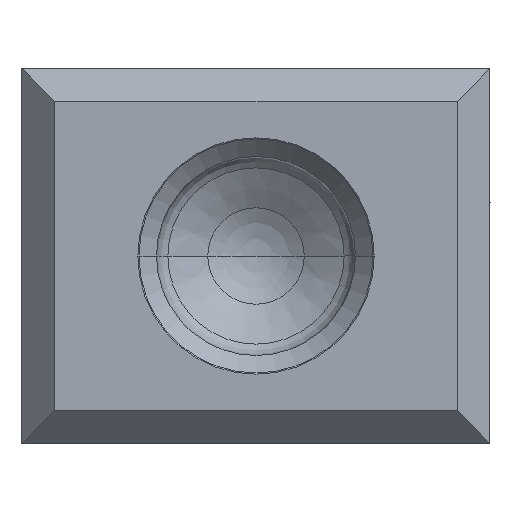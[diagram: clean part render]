
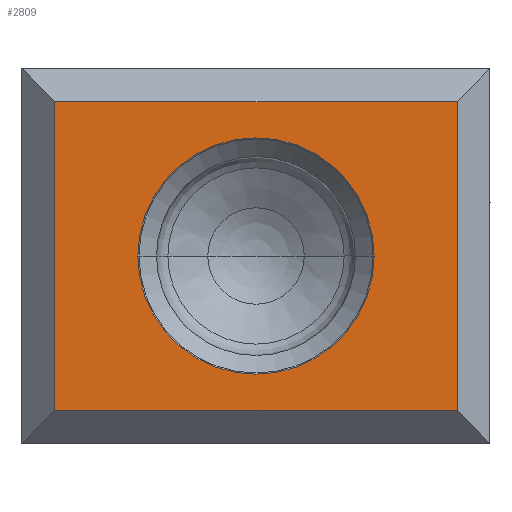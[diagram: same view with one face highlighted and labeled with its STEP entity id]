
A CAD part, left-side view. The second image highlights one B-rep face of the part: STEP entity #2809.
In plain terms, the highlighted planar face has unit normal (-1, 0, 0).
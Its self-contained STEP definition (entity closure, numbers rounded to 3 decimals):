
#489=DIRECTION('',(0.,1.,0.));
#490=VECTOR('',#489,8.6);
#491=CARTESIAN_POINT('',(-22.,0.7,3.3));
#492=LINE('',#491,#490);
#497=DIRECTION('',(0.,0.,-1.));
#498=VECTOR('',#497,6.6);
#499=CARTESIAN_POINT('',(-22.,0.7,3.3));
#500=LINE('',#499,#498);
#501=DIRECTION('',(0.,1.,0.));
#502=VECTOR('',#501,8.6);
#503=CARTESIAN_POINT('',(-22.,0.7,-3.3));
#504=LINE('',#503,#502);
#505=CARTESIAN_POINT('',(-22.,5.,0.));
#506=DIRECTION('',(-1.,0.,0.));
#507=DIRECTION('',(0.,1.,0.));
#508=AXIS2_PLACEMENT_3D('',#505,#506,#507);
#510=CARTESIAN_POINT('',(-22.,5.,0.));
#511=DIRECTION('',(-1.,0.,0.));
#512=DIRECTION('',(0.,-1.,0.));
#513=AXIS2_PLACEMENT_3D('',#510,#511,#512);
#923=DIRECTION('',(0.,0.,-1.));
#924=VECTOR('',#923,6.6);
#925=CARTESIAN_POINT('',(-22.,9.3,3.3));
#926=LINE('',#925,#924);
#1424=CARTESIAN_POINT('',(-22.,0.7,3.3));
#1425=CARTESIAN_POINT('',(-22.,9.3,3.3));
#1426=VERTEX_POINT('',#1424);
#1427=VERTEX_POINT('',#1425);
#1428=CARTESIAN_POINT('',(-22.,0.7,-3.3));
#1429=VERTEX_POINT('',#1428);
#1430=CARTESIAN_POINT('',(-22.,9.3,-3.3));
#1431=VERTEX_POINT('',#1430);
#1432=CARTESIAN_POINT('',(-22.,7.525,0.));
#1433=CARTESIAN_POINT('',(-22.,2.475,0.));
#1434=VERTEX_POINT('',#1432);
#1435=VERTEX_POINT('',#1433);
#2789=CARTESIAN_POINT('',(-22.,10.25,-5.25));
#2790=DIRECTION('',(-1.,0.,0.));
#2791=DIRECTION('',(0.,-1.,0.));
#2792=AXIS2_PLACEMENT_3D('',#2789,#2790,#2791);
#2793=PLANE('',#2792);
#2795=ORIENTED_EDGE('',*,*,#2794,.T.);
#2797=ORIENTED_EDGE('',*,*,#2796,.T.);
#2799=ORIENTED_EDGE('',*,*,#2798,.F.);
#2800=ORIENTED_EDGE('',*,*,#2779,.F.);
#2801=EDGE_LOOP('',(#2795,#2797,#2799,#2800));
#2802=FACE_OUTER_BOUND('',#2801,.F.);
#2804=ORIENTED_EDGE('',*,*,#2803,.T.);
#2806=ORIENTED_EDGE('',*,*,#2805,.T.);
#2807=EDGE_LOOP('',(#2804,#2806));
#2808=FACE_BOUND('',#2807,.F.);
#2809=ADVANCED_FACE('',(#2802,#2808),#2793,.T.);
#509=CIRCLE('',#508,2.525);
#514=CIRCLE('',#513,2.525);
#2779=EDGE_CURVE('',#1426,#1427,#492,.T.);
#2794=EDGE_CURVE('',#1426,#1429,#500,.T.);
#2796=EDGE_CURVE('',#1429,#1431,#504,.T.);
#2798=EDGE_CURVE('',#1427,#1431,#926,.T.);
#2803=EDGE_CURVE('',#1434,#1435,#509,.T.);
#2805=EDGE_CURVE('',#1435,#1434,#514,.T.);
